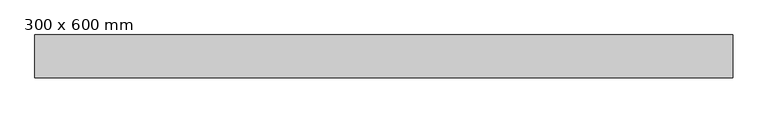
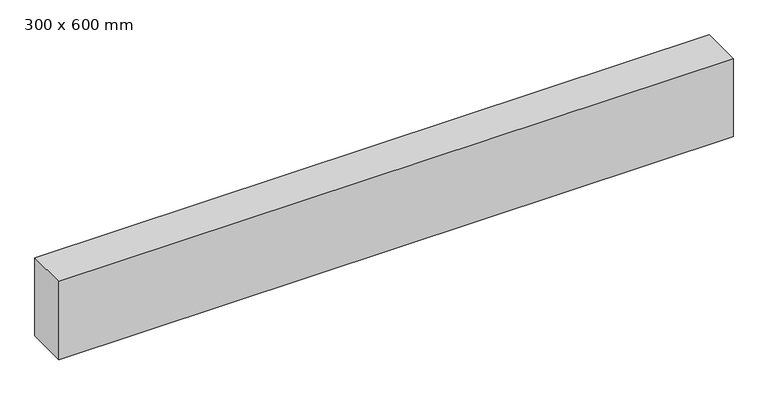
"""IFC4 building model written with IfcOpenShell, lengths in millimetres: beam geometry, Poutre rectangulaire - Béton : 300 x 600 mm."""

from ifc_helpers import new_model, si_unit, frame, origin, place, context, project, spatial, polyline, outline, extrude, source, transform, mapped, element, save


def beam_300_x_600_mm_495a3724(model_context):
    return source(origin(), model_context, "Body", "SweptSolid", [
        extrude(outline(polyline([(2445.7, 150.0), (2445.7, -150.0), (-2445.7, -150.0), (-2445.7, 150.0), (2445.7, 150.0)])), frame((0.0, 0.0, -300.0), z_axis=(0.0, 0.0, 1.0), x_axis=(1.0, 0.0, 0.0)), (0.0, 0.0, 1.0), 600.0),
    ])


if __name__ == "__main__":
    model = new_model("IFC4")
    model_context = context("Model", 3, world=origin())
    ifc_project = project(units=[si_unit("LENGTHUNIT", "METRE", prefix="MILLI")], contexts=[model_context])
    site = spatial("IfcSite", under=ifc_project)
    building = spatial("IfcBuilding", under=site)
    placement = place(None, origin())
    beam_300_x_600_mm_shape = beam_300_x_600_mm_495a3724(model_context)
    element("IfcBeam", 1, ObjectType="Poutre rectangulaire - Béton : 300 x 600 mm", at=placement, inside=building, context=model_context, shape_type="MappedRepresentation", body=[
        mapped(beam_300_x_600_mm_shape, transform((0.0, 0.0, 0.0), x_axis=(1.0, 0.0, 0.0), y_axis=(0.0, 1.0, 0.0), z_axis=(0.0, 0.0, 1.0))),
    ])
    save(model, "model.ifc")
